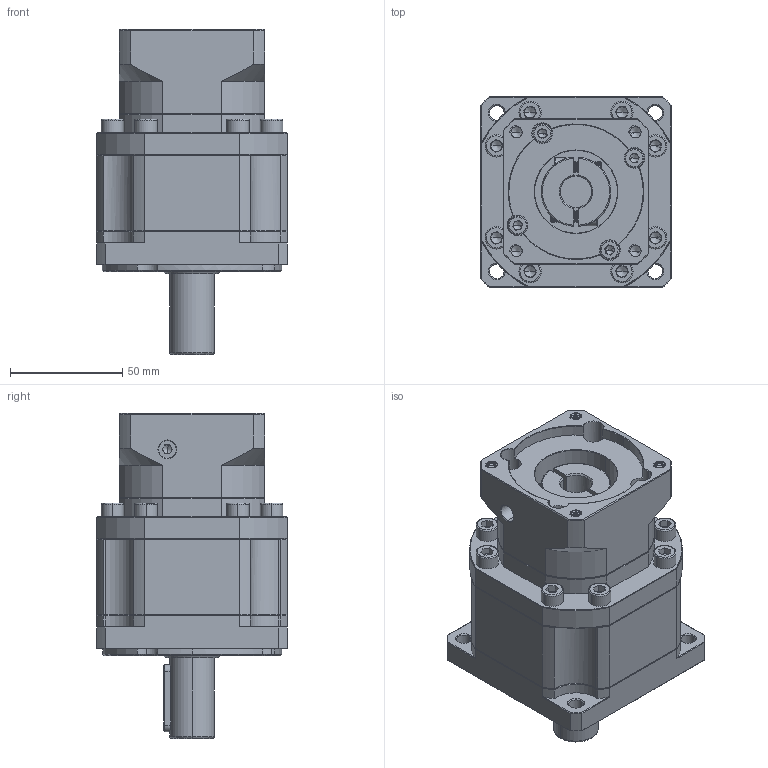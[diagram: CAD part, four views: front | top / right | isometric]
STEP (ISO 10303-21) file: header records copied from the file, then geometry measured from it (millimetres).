
FILE_DESCRIPTION (( 'STEP AP214' ), '1' );
FILE_NAME ('ZB90-D20-L2-14-60-75-M6.STEP', '2022-05-02T15:28:26', ( '' ), ( 'Microsoft' ), 'SwSTEP 2.0', 'SolidWorks 2016', '' );
FILE_SCHEMA (( 'AUTOMOTIVE_DESIGN' ));
Length unit declared in the file: millimetre
Products named in the file (1): ZB90-D20-L2-14-60-75-M6
Bounding box: 85 x 85 x 145 mm (x, y, z)
Volume: 538032.1 mm3; surface area: 76676.5 mm2
Topology: 6 solids, 6 shells, 2087 faces, 5475 edges, 3475 vertices
Faces by surface type: plane 1005, cylinder 405, bspline 328, cone 327, torus 22
Entity records: 110003 total; most frequent: CARTESIAN_POINT 38251, ORIENTED_EDGE 10858, DIRECTION 9012, EDGE_CURVE 5429, VERTEX_POINT 3475, VECTOR 3338, LINE 3338, AXIS2_PLACEMENT_3D 2837
